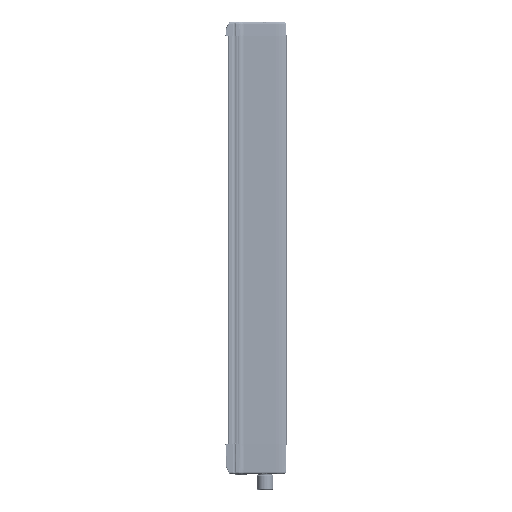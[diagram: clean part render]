
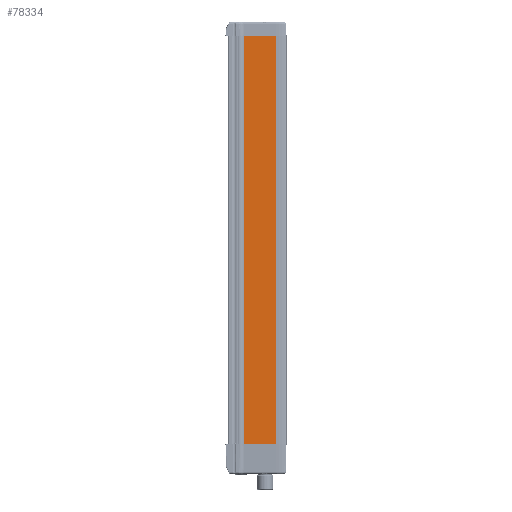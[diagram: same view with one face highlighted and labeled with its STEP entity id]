
A CAD part, left-side view. The second image highlights one B-rep face of the part: STEP entity #78334.
In plain terms, the highlighted planar face has unit normal (-1, 0, 0).
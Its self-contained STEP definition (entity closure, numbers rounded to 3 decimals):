
#17230 = VECTOR ( 'NONE', #134240, 1000. ) ;
#22392 = CARTESIAN_POINT ( 'NONE',  ( -22.5, -14.5, 0. ) ) ;
#23305 = VERTEX_POINT ( 'NONE', #221208 ) ;
#26570 = DIRECTION ( 'NONE',  ( 0., 0., -1. ) ) ;
#34192 = DIRECTION ( 'NONE',  ( 0., 1., 0. ) ) ;
#45220 = AXIS2_PLACEMENT_3D ( 'NONE', #267847, #246487, #113164 ) ;
#58698 = EDGE_CURVE ( 'NONE', #120655, #235641, #175325, .T. ) ;
#64748 = CARTESIAN_POINT ( 'NONE',  ( -22.5, 8.8, -50. ) ) ;
#74850 = ORIENTED_EDGE ( 'NONE', *, *, #58698, .T. ) ;
#78334 = ADVANCED_FACE ( 'NONE', ( #248350 ), #89702, .F. ) ;
#84239 = CARTESIAN_POINT ( 'NONE',  ( -22.5, -14.5, -50. ) ) ;
#89702 = PLANE ( 'NONE',  #45220 ) ;
#98346 = EDGE_CURVE ( 'NONE', #23305, #120655, #185561, .T. ) ;
#103088 = VECTOR ( 'NONE', #130436, 1000. ) ;
#107958 = CARTESIAN_POINT ( 'NONE',  ( -22.5, -14.5, -50. ) ) ;
#113164 = DIRECTION ( 'NONE',  ( 0., 0., -1. ) ) ;
#120655 = VERTEX_POINT ( 'NONE', #236083 ) ;
#130436 = DIRECTION ( 'NONE',  ( 0., 1., 0. ) ) ;
#131162 = LINE ( 'NONE', #107958, #103088 ) ;
#134240 = DIRECTION ( 'NONE',  ( 0., 0., -1. ) ) ;
#140852 = VERTEX_POINT ( 'NONE', #84239 ) ;
#144569 = EDGE_CURVE ( 'NONE', #23305, #140852, #149529, .T. ) ;
#149529 = LINE ( 'NONE', #22392, #17230 ) ;
#155119 = ORIENTED_EDGE ( 'NONE', *, *, #144569, .F. ) ;
#168438 = CARTESIAN_POINT ( 'NONE',  ( -22.5, -14.5, 251. ) ) ;
#175325 = LINE ( 'NONE', #182165, #234399 ) ;
#182165 = CARTESIAN_POINT ( 'NONE',  ( -22.5, 8.8, 0. ) ) ;
#185561 = LINE ( 'NONE', #168438, #237681 ) ;
#189718 = ORIENTED_EDGE ( 'NONE', *, *, #98346, .T. ) ;
#200326 = ORIENTED_EDGE ( 'NONE', *, *, #245320, .F. ) ;
#221208 = CARTESIAN_POINT ( 'NONE',  ( -22.5, -14.5, 251. ) ) ;
#234399 = VECTOR ( 'NONE', #26570, 1000. ) ;
#235641 = VERTEX_POINT ( 'NONE', #64748 ) ;
#236083 = CARTESIAN_POINT ( 'NONE',  ( -22.5, 8.8, 251. ) ) ;
#237681 = VECTOR ( 'NONE', #34192, 1000. ) ;
#245320 = EDGE_CURVE ( 'NONE', #140852, #235641, #131162, .T. ) ;
#246487 = DIRECTION ( 'NONE',  ( 1., 0., 0. ) ) ;
#248350 = FACE_OUTER_BOUND ( 'NONE', #278737, .T. ) ;
#267847 = CARTESIAN_POINT ( 'NONE',  ( -22.5, -14.5, 0. ) ) ;
#278737 = EDGE_LOOP ( 'NONE', ( #189718, #74850, #200326, #155119 ) ) ;
